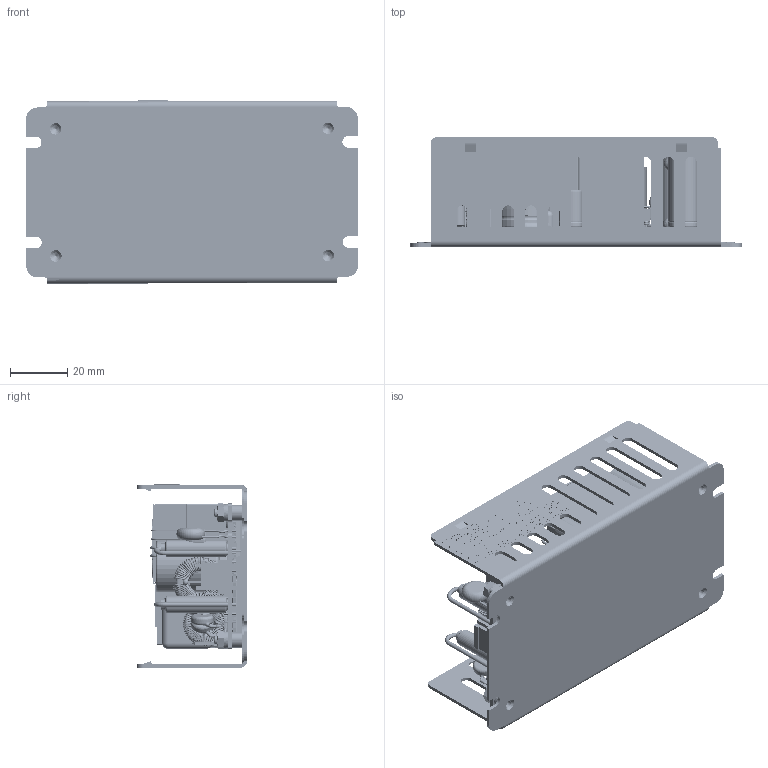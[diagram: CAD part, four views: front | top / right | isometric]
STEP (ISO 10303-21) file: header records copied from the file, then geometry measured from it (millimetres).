
FILE_DESCRIPTION (( 'STEP AP214' ), '1' );
FILE_NAME ('CUS-100ME-U.STEP', '2018-04-19T12:32:00', ( '' ), ( '' ), 'SwSTEP 2.0', 'SolidWorks 2017', '' );
FILE_SCHEMA (( 'AUTOMOTIVE_DESIGN' ));
Length unit declared in the file: millimetre
Products named in the file (1): CUS-100ME-U
Bounding box: 116.08 x 38.5 x 64.1 mm (x, y, z)
Volume: 85640.4 mm3; surface area: 122844.7 mm2
Topology: 299 solids, 299 shells, 9906 faces, 23956 edges, 15053 vertices
Faces by surface type: plane 5718, bspline 2271, cylinder 1485, torus 281, sphere 122, cone 29
Full cylindrical faces by diameter (mm): 0.349 x1, 0.5 x35, 0.52 x4, 0.6 x62, 0.632 x2, 0.65 x2, 0.7 x2, 0.8 x38, 0.9 x22, 1 x69, 1.1 x2, 1.2 x4, 1.3 x4, 1.5 x7, 1.6 x6, 1.7 x2, 1.8 x11, 1.85 x2, 2 x2, 2.2 x4, 2.5 x4, 3 x8, 3.2 x8, 3.5 x1, 3.7 x4, 3.96 x4, 4 x1, 4.6 x4, 5 x2, 5.38 x4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
Entity records: 498381 total; most frequent: CARTESIAN_POINT 174329, ORIENTED_EDGE 43890, DIRECTION 38445, EDGE_CURVE 21945, VECTOR 14951, LINE 14951, VERTEX_POINT 14913, EDGE_LOOP 12476
